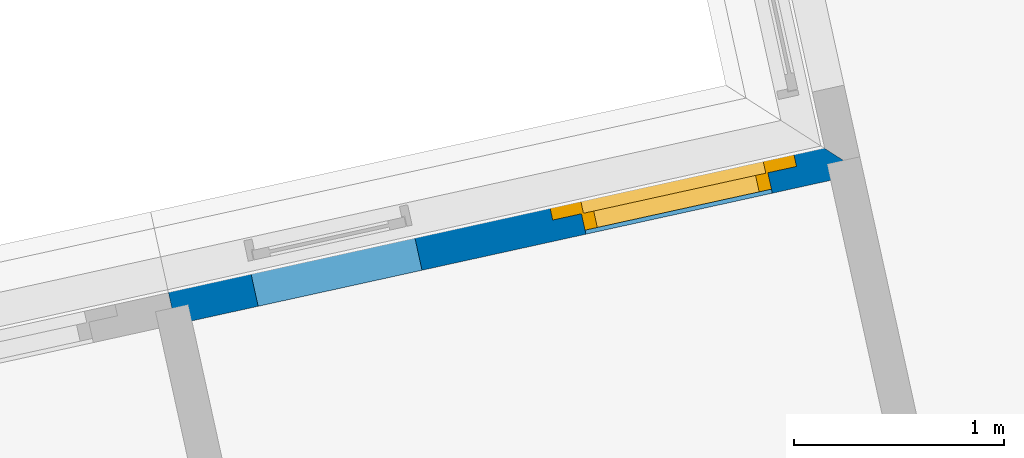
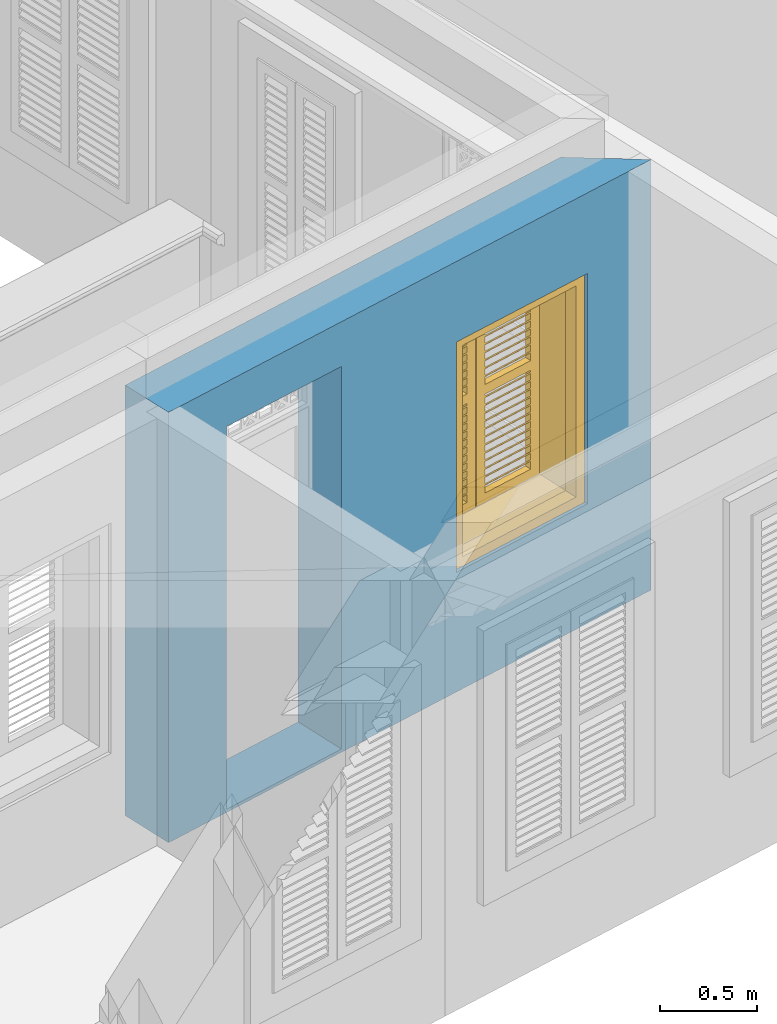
# One storey, part 4 of 17: 1 wall, 1 window, 2 openings.
"""IFC4 building model written with IfcOpenShell, lengths in metres."""

from ifc_helpers import new_model, si_unit, frame, origin, origin_with_axes, place, context, subcontext, project, spatial, polyline, outline, extrude, faceted_brep, source, transform, mapped, material, layer, layer_set, layer_usage, type_object, type_shapes, element, fill, save


model = new_model("IFC4")

# Units and contexts
model_context = context("Model", 3, world=origin_with_axes())
body_context = subcontext(model_context, "Body", "Model", "MODEL_VIEW")
ifc_project = project(units=[si_unit("PLANEANGLEUNIT", "RADIAN"), si_unit("MASSUNIT", "GRAM", prefix="KILO"), si_unit("FORCEUNIT", "NEWTON", prefix="KILO"), si_unit("LENGTHUNIT", "METRE"), si_unit("AREAUNIT", "SQUARE_METRE"), si_unit("VOLUMEUNIT", "CUBIC_METRE")], contexts=[model_context, model_context])

# Site, building, storey
site_placement = place(None, origin_with_axes())
site = spatial("IfcSite", under=ifc_project, at=site_placement, Name="Site plot-2", CompositionType="ELEMENT")
building_placement = place(None, origin_with_axes())
building = spatial("IfcBuilding", under=site, at=building_placement, Name="Building plot-2", CompositionType="ELEMENT")
storey_placement = place(None, frame((0.0, 0.0, 2.85), z_axis=(0.0, 0.0, 1.0), x_axis=(1.0, 0.0, 0.0)))
storey = spatial("IfcBuildingStorey", under=building, at=storey_placement, Name="plot-2 1", CompositionType="ELEMENT", Elevation=2.85)

# Wall, openings, window
ifc_material = material(Name="Masonry")
ifc_layer = layer(ifc_material, 0.33, ventilated=False)
ifc_layer_set = layer_set([ifc_layer], Name="exterior_0.08_0.25")
ifc_layer_usage = layer_usage(ifc_layer_set, "AXIS2", "POSITIVE", -0.25)
wall_type = type_object("IfcWallType", Name="exterior_0.08_0.25", PredefinedType="SOLIDWALL", material=ifc_layer_set)
wall_placement = place(storey_placement, frame((17.3993050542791, 4.6147878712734, 0.0), z_axis=(0.0, 0.0, 1.0), x_axis=(-0.976656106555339, -0.214808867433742, 0.0)))
wall = element("IfcWall", 1, at=wall_placement, inside=storey, type_object=wall_type, material=ifc_layer_usage, Name="exterior", context=body_context, shape_type="SweptSolid", body=[
    extrude(outline(polyline([(-0.0799999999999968, 0.0800000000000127), (0.249999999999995, -0.24999999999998), (3.27829974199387, -0.25), (3.27829974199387, 0.0799999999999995), (-0.0799999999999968, 0.0800000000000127)])), origin_with_axes(), (0.0, 0.0, 1.0), 2.7),
])
opening_1_placement = place(wall_placement, frame((0.364574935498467, 0.0, 0.75)))
opening_1 = element("IfcOpeningElement", 2, at=opening_1_placement, cuts=wall, Name="My Opening", ObjectType="Opening", context=body_context, shape_type="SweptSolid", body=[
    extrude(outline(polyline([(0.0, -0.27), (0.910000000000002, -0.270000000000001), (0.910000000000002, 1.1), (1.11022302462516e-15, 1.1), (0.0, -0.27)])), origin_with_axes(), (0.0, 0.0, 1.0), 1.445),
])
opening_2_placement = place(wall_placement, frame((2.07457493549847, 0.0, 0.02)))
element("IfcOpeningElement", 3, at=opening_2_placement, cuts=wall, Name="My Opening", ObjectType="Opening", context=body_context, shape_type="SweptSolid", body=[
    extrude(outline(polyline([(0.0, -0.270000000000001), (0.800000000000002, -0.270000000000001), (0.8, 1.1), (-8.88178419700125e-16, 1.1), (0.0, -0.270000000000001)])), origin_with_axes(), (0.0, 0.0, 1.0), 2.4),
])
window_type = type_object("IfcWindowType", Name="shuttered_shorter", PartitioningType="DOUBLE_PANEL_HORIZONTAL", PredefinedType="NOTDEFINED")
shared_shape = source(origin(), body_context, "Body", "Brep", [
    faceted_brep([(0.393, 0.0, 0.622), (0.074, 0.0, 0.622), (0.074, 0.0, 0.632), (0.393, 0.0, 0.632), (0.074, -0.04, 0.592), (0.393, -0.04, 0.592), (0.393, -0.04, 0.582), (0.074, -0.04, 0.582), (0.517, 0.0, 0.682), (0.836, 0.0, 0.682), (0.836, 0.0, 0.672), (0.517, 0.0, 0.672), (0.517, -0.04, 0.642), (0.836, -0.04, 0.642), (0.836, -0.04, 0.632), (0.517, -0.04, 0.632), (0.517, 0.0, 0.632), (0.836, 0.0, 0.632), (0.836, 0.0, 0.622), (0.517, 0.0, 0.622), (0.517, -0.04, 0.592), (0.836, -0.04, 0.592), (0.836, -0.04, 0.582), (0.517, -0.04, 0.582), (0.517, 0.0, 0.232), (0.836, 0.0, 0.232), (0.836, 0.0, 0.222), (0.517, 0.0, 0.222), (0.517, -0.04, 0.192), (0.836, -0.04, 0.192), (0.836, -0.04, 0.182), (0.517, -0.04, 0.182), (0.517, 0.0, 0.532), (0.836, 0.0, 0.532), (0.836, 0.0, 0.522), (0.517, 0.0, 0.522), (0.517, -0.04, 0.492), (0.836, -0.04, 0.492), (0.836, -0.04, 0.482), (0.517, -0.04, 0.482), (0.517, 0.0, 0.482), (0.836, 0.0, 0.482), (0.836, 0.0, 0.472), (0.517, 0.0, 0.472), (0.517, -0.04, 0.442), (0.836, -0.04, 0.442), (0.836, -0.04, 0.432), (0.517, -0.04, 0.432), (0.517, 0.0, 0.582), (0.836, 0.0, 0.582), (0.836, 0.0, 0.572), (0.517, 0.0, 0.572), (0.517, -0.04, 0.542), (0.836, -0.04, 0.542), (0.836, -0.04, 0.532), (0.517, -0.04, 0.532), (0.517, 0.0, 0.182), (0.836, 0.0, 0.182), (0.836, 0.0, 0.172), (0.517, 0.0, 0.172), (0.517, -0.04, 0.142), (0.836, -0.04, 0.142), (0.836, -0.04, 0.132), (0.517, -0.04, 0.132), (0.517, 0.0, 0.382), (0.836, 0.0, 0.382), (0.836, 0.0, 0.372), (0.517, 0.0, 0.372), (0.517, -0.04, 0.342), (0.836, -0.04, 0.342), (0.836, -0.04, 0.332), (0.517, -0.04, 0.332), (0.517, 0.0, 0.432), (0.836, 0.0, 0.432), (0.836, 0.0, 0.422), (0.517, 0.0, 0.422), (0.517, -0.04, 0.392), (0.836, -0.04, 0.392), (0.836, -0.04, 0.382), (0.517, -0.04, 0.382), (0.517, 0.0, 0.132), (0.836, 0.0, 0.132), (0.836, 0.0, 0.122), (0.517, 0.0, 0.122), (0.517, -0.04, 0.092), (0.836, -0.04, 0.092), (0.836, -0.04, 0.082), (0.517, -0.04, 0.082), (0.517, 0.0, 0.282), (0.836, 0.0, 0.282), (0.836, 0.0, 0.272), (0.517, 0.0, 0.272), (0.517, -0.04, 0.242), (0.836, -0.04, 0.242), (0.836, -0.04, 0.232), (0.517, -0.04, 0.232), (0.517, 0.0, 0.332), (0.836, 0.0, 0.332), (0.836, 0.0, 0.322), (0.517, 0.0, 0.322), (0.517, -0.04, 0.292), (0.836, -0.04, 0.292), (0.836, -0.04, 0.282), (0.517, -0.04, 0.282), (0.517, 0.0, 1.362667), (0.836, 0.0, 1.362667), (0.836, 0.0, 1.352667), (0.517, 0.0, 1.352667), (0.517, -0.04, 1.322667), (0.836, -0.04, 1.322667), (0.836, -0.04, 1.312667), (0.517, -0.04, 1.312667), (0.517, 0.0, 1.312667), (0.836, 0.0, 1.312667), (0.836, 0.0, 1.302667), (0.517, 0.0, 1.302667), (0.517, -0.04, 1.272667), (0.836, -0.04, 1.272667), (0.836, -0.04, 1.262667), (0.517, -0.04, 1.262667), (0.517, 0.0, 0.912667), (0.836, 0.0, 0.912667), (0.836, 0.0, 0.902667), (0.517, 0.0, 0.902667), (0.517, -0.04, 0.872667), (0.836, -0.04, 0.872667), (0.836, -0.04, 0.862667), (0.517, -0.04, 0.862667), (0.517, 0.0, 1.212667), (0.836, 0.0, 1.212667), (0.836, 0.0, 1.202667), (0.517, 0.0, 1.202667), (0.517, -0.04, 1.172667), (0.836, -0.04, 1.172667), (0.836, -0.04, 1.162667), (0.517, -0.04, 1.162667), (0.517, 0.0, 1.162667), (0.836, 0.0, 1.162667), (0.836, 0.0, 1.152667), (0.517, 0.0, 1.152667), (0.517, -0.04, 1.122667), (0.836, -0.04, 1.122667), (0.836, -0.04, 1.112667), (0.517, -0.04, 1.112667), (0.517, 0.0, 1.262667), (0.836, 0.0, 1.262667), (0.836, 0.0, 1.252667), (0.517, 0.0, 1.252667), (0.517, -0.04, 1.222667), (0.836, -0.04, 1.222667), (0.836, -0.04, 1.212667), (0.517, -0.04, 1.212667), (0.517, 0.0, 0.862667), (0.836, 0.0, 0.862667), (0.836, 0.0, 0.852667), (0.517, 0.0, 0.852667), (0.517, -0.04, 0.822667), (0.836, -0.04, 0.822667), (0.836, -0.04, 0.812667), (0.517, -0.04, 0.812667), (0.517, 0.0, 1.062667), (0.836, 0.0, 1.062667), (0.836, 0.0, 1.052667), (0.517, 0.0, 1.052667), (0.517, -0.04, 1.022667), (0.836, -0.04, 1.022667), (0.836, -0.04, 1.012667), (0.517, -0.04, 1.012667), (0.517, 0.0, 1.112667), (0.836, 0.0, 1.112667), (0.836, 0.0, 1.102667), (0.517, 0.0, 1.102667), (0.517, -0.04, 1.072667), (0.836, -0.04, 1.072667), (0.836, -0.04, 1.062667), (0.517, -0.04, 1.062667), (0.517, 0.0, 0.812667), (0.836, 0.0, 0.812667), (0.836, 0.0, 0.802667), (0.517, 0.0, 0.802667), (0.517, -0.04, 0.772667), (0.836, -0.04, 0.772667), (0.836, -0.04, 0.762667), (0.517, -0.04, 0.762667), (0.517, 0.0, 0.962667), (0.836, 0.0, 0.962667), (0.836, 0.0, 0.952667), (0.517, 0.0, 0.952667), (0.517, -0.04, 0.922667), (0.836, -0.04, 0.922667), (0.836, -0.04, 0.912667), (0.517, -0.04, 0.912667), (0.517, 0.0, 1.012667), (0.836, 0.0, 1.012667), (0.836, 0.0, 1.002667), (0.517, 0.0, 1.002667), (0.517, -0.04, 0.972667), (0.836, -0.04, 0.972667), (0.836, -0.04, 0.962667), (0.517, -0.04, 0.962667), (0.074, 0.0, 0.682), (0.393, 0.0, 0.682), (0.393, 0.0, 0.672), (0.074, 0.0, 0.672), (0.074, -0.04, 0.642), (0.393, -0.04, 0.642), (0.393, -0.04, 0.632), (0.074, -0.04, 0.632), (0.074, 0.0, 0.232), (0.393, 0.0, 0.232), (0.393, 0.0, 0.222), (0.074, 0.0, 0.222), (0.074, -0.04, 0.192), (0.393, -0.04, 0.192), (0.393, -0.04, 0.182), (0.074, -0.04, 0.182), (0.074, 0.0, 0.532), (0.393, 0.0, 0.532), (0.393, 0.0, 0.522), (0.074, 0.0, 0.522), (0.074, -0.04, 0.492), (0.393, -0.04, 0.492), (0.393, -0.04, 0.482), (0.074, -0.04, 0.482), (0.074, 0.0, 0.482), (0.393, 0.0, 0.482), (0.393, 0.0, 0.472), (0.074, 0.0, 0.472), (0.074, -0.04, 0.442), (0.393, -0.04, 0.442), (0.393, -0.04, 0.432), (0.074, -0.04, 0.432), (0.074, 0.0, 0.582), (0.393, 0.0, 0.582), (0.393, 0.0, 0.572), (0.074, 0.0, 0.572), (0.074, -0.04, 0.542), (0.393, -0.04, 0.542), (0.393, -0.04, 0.532), (0.074, -0.04, 0.532), (0.074, 0.0, 0.182), (0.393, 0.0, 0.182), (0.393, 0.0, 0.172), (0.074, 0.0, 0.172), (0.074, -0.04, 0.142), (0.393, -0.04, 0.142), (0.393, -0.04, 0.132), (0.074, -0.04, 0.132), (0.074, 0.0, 0.382), (0.393, 0.0, 0.382), (0.393, 0.0, 0.372), (0.074, 0.0, 0.372), (0.074, -0.04, 0.342), (0.393, -0.04, 0.342), (0.393, -0.04, 0.332), (0.074, -0.04, 0.332), (0.074, 0.0, 0.432), (0.393, 0.0, 0.432), (0.393, 0.0, 0.422), (0.074, 0.0, 0.422), (0.074, -0.04, 0.392), (0.393, -0.04, 0.392), (0.393, -0.04, 0.382), (0.074, -0.04, 0.382), (0.074, 0.0, 0.132), (0.393, 0.0, 0.132), (0.393, 0.0, 0.122), (0.074, 0.0, 0.122), (0.074, -0.04, 0.092), (0.393, -0.04, 0.092), (0.393, -0.04, 0.082), (0.074, -0.04, 0.082), (0.074, 0.0, 0.282), (0.393, 0.0, 0.282), (0.393, 0.0, 0.272), (0.074, 0.0, 0.272), (0.074, -0.04, 0.242), (0.393, -0.04, 0.242), (0.393, -0.04, 0.232), (0.074, -0.04, 0.232), (0.074, 0.0, 0.332), (0.393, 0.0, 0.332), (0.393, 0.0, 0.322), (0.074, 0.0, 0.322), (0.074, -0.04, 0.292), (0.393, -0.04, 0.292), (0.393, -0.04, 0.282), (0.074, -0.04, 0.282), (0.074, 0.0, 1.362667), (0.393, 0.0, 1.362667), (0.393, 0.0, 1.352667), (0.074, 0.0, 1.352667), (0.074, -0.04, 1.322667), (0.393, -0.04, 1.322667), (0.393, -0.04, 1.312667), (0.074, -0.04, 1.312667), (0.074, 0.0, 1.312667), (0.393, 0.0, 1.312667), (0.393, 0.0, 1.302667), (0.074, 0.0, 1.302667), (0.074, -0.04, 1.272667), (0.393, -0.04, 1.272667), (0.393, -0.04, 1.262667), (0.074, -0.04, 1.262667), (0.074, 0.0, 0.912667), (0.393, 0.0, 0.912667), (0.393, 0.0, 0.902667), (0.074, 0.0, 0.902667), (0.074, -0.04, 0.872667), (0.393, -0.04, 0.872667), (0.393, -0.04, 0.862667), (0.074, -0.04, 0.862667), (0.074, 0.0, 1.212667), (0.393, 0.0, 1.212667), (0.393, 0.0, 1.202667), (0.074, 0.0, 1.202667), (0.074, -0.04, 1.172667), (0.393, -0.04, 1.172667), (0.393, -0.04, 1.162667), (0.074, -0.04, 1.162667), (0.074, 0.0, 1.162667), (0.393, 0.0, 1.162667), (0.393, 0.0, 1.152667), (0.074, 0.0, 1.152667), (0.074, -0.04, 1.122667), (0.393, -0.04, 1.122667), (0.393, -0.04, 1.112667), (0.074, -0.04, 1.112667), (0.074, 0.0, 1.262667), (0.393, 0.0, 1.262667), (0.393, 0.0, 1.252667), (0.074, 0.0, 1.252667), (0.074, -0.04, 1.222667), (0.393, -0.04, 1.222667), (0.393, -0.04, 1.212667), (0.074, -0.04, 1.212667), (0.074, 0.0, 0.862667), (0.393, 0.0, 0.862667), (0.393, 0.0, 0.852667), (0.074, 0.0, 0.852667), (0.074, -0.04, 0.822667), (0.393, -0.04, 0.822667), (0.393, -0.04, 0.812667), (0.074, -0.04, 0.812667), (0.074, 0.0, 1.062667), (0.393, 0.0, 1.062667), (0.393, 0.0, 1.052667), (0.074, 0.0, 1.052667), (0.074, -0.04, 1.022667), (0.393, -0.04, 1.022667), (0.393, -0.04, 1.012667), (0.074, -0.04, 1.012667), (0.074, 0.0, 1.112667), (0.393, 0.0, 1.112667), (0.393, 0.0, 1.102667), (0.074, 0.0, 1.102667), (0.074, -0.04, 1.072667), (0.393, -0.04, 1.072667), (0.393, -0.04, 1.062667), (0.074, -0.04, 1.062667), (0.074, 0.0, 0.812667), (0.393, 0.0, 0.812667), (0.393, 0.0, 0.802667), (0.074, 0.0, 0.802667), (0.074, -0.04, 0.772667), (0.393, -0.04, 0.772667), (0.393, -0.04, 0.762667), (0.074, -0.04, 0.762667), (0.074, 0.0, 0.962667), (0.393, 0.0, 0.962667), (0.393, 0.0, 0.952667), (0.074, 0.0, 0.952667), (0.074, -0.04, 0.922667), (0.393, -0.04, 0.922667), (0.393, -0.04, 0.912667), (0.074, -0.04, 0.912667), (0.074, 0.0, 1.012667), (0.393, 0.0, 1.012667), (0.393, 0.0, 1.002667), (0.074, 0.0, 1.002667), (0.074, -0.04, 0.972667), (0.393, -0.04, 0.972667), (0.393, -0.04, 0.962667), (0.074, -0.04, 0.962667), (0.517, -0.04, 0.072), (0.457, -0.04, 0.012), (0.896, -0.04, 0.012), (0.836, -0.04, 0.072), (0.457, -0.04, 0.692667), (0.517, -0.04, 0.692667), (0.457, 0.0, 0.012), (0.896, 0.0, 0.012), (0.836, -0.04, 0.692667), (0.896, -0.04, 0.692667), (0.836, 0.0, 0.072), (0.517, 0.0, 0.072), (0.457, 0.0, 0.692667), (0.517, 0.0, 0.692667), (0.517, -0.04, 0.752666), (0.457, -0.04, 0.752666), (0.896, 0.0, 0.692667), (0.836, 0.0, 0.692667), (0.836, -0.04, 0.752666), (0.896, -0.04, 0.752666), (0.457, 0.0, 0.752666), (0.457, -0.04, 1.433333), (0.517, -0.04, 1.373333), (0.896, 0.0, 0.752666), (0.836, -0.04, 1.373333), (0.896, -0.04, 1.433333), (0.457, 0.0, 1.433333), (0.517, 0.0, 0.752666), (0.836, 0.0, 0.752666), (0.517, 0.0, 1.373333), (0.896, 0.0, 1.433333), (0.836, 0.0, 1.373333), (0.074, -0.04, 0.072), (0.014, -0.04, 0.012), (0.453, -0.04, 0.012), (0.393, -0.04, 0.072), (0.014, -0.04, 0.692667), (0.074, -0.04, 0.692667), (0.014, 0.0, 0.012), (0.453, 0.0, 0.012), (0.393, -0.04, 0.692667), (0.453, -0.04, 0.692667), (0.393, 0.0, 0.072), (0.074, 0.0, 0.072), (0.014, 0.0, 0.692667), (0.074, 0.0, 0.692667), (0.074, -0.04, 0.752666), (0.014, -0.04, 0.752666), (0.453, 0.0, 0.692667), (0.393, 0.0, 0.692667), (0.393, -0.04, 0.752666), (0.453, -0.04, 0.752666), (0.014, 0.0, 0.752666), (0.014, -0.04, 1.433333), (0.074, -0.04, 1.373333), (0.453, 0.0, 0.752666), (0.393, -0.04, 1.373333), (0.453, -0.04, 1.433333), (0.014, 0.0, 1.433333), (0.074, 0.0, 0.752666), (0.393, 0.0, 0.752666), (0.074, 0.0, 1.373333), (0.453, 0.0, 1.433333), (0.393, 0.0, 1.373333), (0.0, 0.33, 1.445), (0.91, 0.33, 1.445), (0.85, 0.33, 1.385), (0.06, 0.33, 1.385), (0.91, 0.25, 1.445), (0.0, 0.25, 1.445), (0.91, 0.25, 1.445), (0.85, 0.33, 0.06), (0.91, 0.33, 0.0), (0.85, 0.25, 1.385), (0.06, 0.25, 1.385), (0.0, 0.33, 0.0), (0.06, 0.33, 0.06), (0.0, 0.25, 0.0), (0.91, 0.25, 0.0), (0.85, 0.25, 0.06), (0.06, 0.25, 0.06), (1.05, 0.25, 1.585), (-0.14, 0.25, 1.585), (-0.14, -0.03, 1.585), (1.05, -0.03, 1.585), (0.9, -0.03, 1.435), (0.01, -0.03, 1.435), (0.01, 0.25, 1.435), (0.9, 0.25, 1.435), (0.9, 0.25, 0.01), (0.9, -0.03, 0.01), (1.05, -0.03, -0.14), (1.05, 0.25, -0.14), (0.01, -0.03, 0.01), (0.01, 0.25, 0.01), (-0.14, -0.03, -0.14), (-0.14, 0.25, -0.14)], [[[0, 1, 2, 3]], [[4, 5, 3, 2]], [[5, 6, 0, 3]], [[1, 0, 6, 7]], [[2, 1, 7, 4]], [[5, 4, 7, 6]], [[8, 9, 10, 11]], [[12, 13, 9, 8]], [[13, 14, 10, 9]], [[14, 15, 11, 10]], [[15, 12, 8, 11]], [[13, 12, 15, 14]], [[16, 17, 18, 19]], [[20, 21, 17, 16]], [[21, 22, 18, 17]], [[22, 23, 19, 18]], [[23, 20, 16, 19]], [[21, 20, 23, 22]], [[24, 25, 26, 27]], [[28, 29, 25, 24]], [[29, 30, 26, 25]], [[30, 31, 27, 26]], [[31, 28, 24, 27]], [[29, 28, 31, 30]], [[32, 33, 34, 35]], [[36, 37, 33, 32]], [[37, 38, 34, 33]], [[38, 39, 35, 34]], [[39, 36, 32, 35]], [[37, 36, 39, 38]], [[40, 41, 42, 43]], [[44, 45, 41, 40]], [[45, 46, 42, 41]], [[46, 47, 43, 42]], [[47, 44, 40, 43]], [[45, 44, 47, 46]], [[48, 49, 50, 51]], [[52, 53, 49, 48]], [[53, 54, 50, 49]], [[54, 55, 51, 50]], [[55, 52, 48, 51]], [[53, 52, 55, 54]], [[56, 57, 58, 59]], [[60, 61, 57, 56]], [[61, 62, 58, 57]], [[62, 63, 59, 58]], [[63, 60, 56, 59]], [[61, 60, 63, 62]], [[64, 65, 66, 67]], [[68, 69, 65, 64]], [[69, 70, 66, 65]], [[70, 71, 67, 66]], [[71, 68, 64, 67]], [[69, 68, 71, 70]], [[72, 73, 74, 75]], [[76, 77, 73, 72]], [[77, 78, 74, 73]], [[78, 79, 75, 74]], [[79, 76, 72, 75]], [[77, 76, 79, 78]], [[80, 81, 82, 83]], [[84, 85, 81, 80]], [[85, 86, 82, 81]], [[86, 87, 83, 82]], [[87, 84, 80, 83]], [[85, 84, 87, 86]], [[88, 89, 90, 91]], [[92, 93, 89, 88]], [[93, 94, 90, 89]], [[94, 95, 91, 90]], [[95, 92, 88, 91]], [[93, 92, 95, 94]], [[96, 97, 98, 99]], [[100, 101, 97, 96]], [[101, 102, 98, 97]], [[102, 103, 99, 98]], [[103, 100, 96, 99]], [[101, 100, 103, 102]], [[104, 105, 106, 107]], [[108, 109, 105, 104]], [[109, 110, 106, 105]], [[110, 111, 107, 106]], [[111, 108, 104, 107]], [[109, 108, 111, 110]], [[112, 113, 114, 115]], [[116, 117, 113, 112]], [[117, 118, 114, 113]], [[118, 119, 115, 114]], [[119, 116, 112, 115]], [[117, 116, 119, 118]], [[120, 121, 122, 123]], [[124, 125, 121, 120]], [[125, 126, 122, 121]], [[126, 127, 123, 122]], [[127, 124, 120, 123]], [[125, 124, 127, 126]], [[128, 129, 130, 131]], [[132, 133, 129, 128]], [[133, 134, 130, 129]], [[134, 135, 131, 130]], [[135, 132, 128, 131]], [[133, 132, 135, 134]], [[136, 137, 138, 139]], [[140, 141, 137, 136]], [[141, 142, 138, 137]], [[142, 143, 139, 138]], [[139, 143, 140, 136]], [[141, 140, 143, 142]], [[144, 145, 146, 147]], [[148, 149, 145, 144]], [[149, 150, 146, 145]], [[150, 151, 147, 146]], [[151, 148, 144, 147]], [[149, 148, 151, 150]], [[152, 153, 154, 155]], [[156, 157, 153, 152]], [[157, 158, 154, 153]], [[158, 159, 155, 154]], [[159, 156, 152, 155]], [[157, 156, 159, 158]], [[160, 161, 162, 163]], [[164, 165, 161, 160]], [[165, 166, 162, 161]], [[166, 167, 163, 162]], [[167, 164, 160, 163]], [[165, 164, 167, 166]], [[168, 169, 170, 171]], [[172, 173, 169, 168]], [[173, 174, 170, 169]], [[174, 175, 171, 170]], [[175, 172, 168, 171]], [[173, 172, 175, 174]], [[176, 177, 178, 179]], [[180, 181, 177, 176]], [[181, 182, 178, 177]], [[182, 183, 179, 178]], [[183, 180, 176, 179]], [[181, 180, 183, 182]], [[184, 185, 186, 187]], [[188, 189, 185, 184]], [[189, 190, 186, 185]], [[190, 191, 187, 186]], [[191, 188, 184, 187]], [[189, 188, 191, 190]], [[192, 193, 194, 195]], [[196, 197, 193, 192]], [[197, 198, 194, 193]], [[198, 199, 195, 194]], [[199, 196, 192, 195]], [[197, 196, 199, 198]], [[200, 201, 202, 203]], [[204, 205, 201, 200]], [[205, 206, 202, 201]], [[206, 207, 203, 202]], [[207, 204, 200, 203]], [[205, 204, 207, 206]], [[208, 209, 210, 211]], [[212, 213, 209, 208]], [[213, 214, 210, 209]], [[214, 215, 211, 210]], [[215, 212, 208, 211]], [[213, 212, 215, 214]], [[216, 217, 218, 219]], [[220, 221, 217, 216]], [[221, 222, 218, 217]], [[222, 223, 219, 218]], [[223, 220, 216, 219]], [[221, 220, 223, 222]], [[224, 225, 226, 227]], [[228, 229, 225, 224]], [[229, 230, 226, 225]], [[230, 231, 227, 226]], [[231, 228, 224, 227]], [[229, 228, 231, 230]], [[232, 233, 234, 235]], [[236, 237, 233, 232]], [[237, 238, 234, 233]], [[238, 239, 235, 234]], [[239, 236, 232, 235]], [[237, 236, 239, 238]], [[240, 241, 242, 243]], [[244, 245, 241, 240]], [[245, 246, 242, 241]], [[246, 247, 243, 242]], [[247, 244, 240, 243]], [[245, 244, 247, 246]], [[248, 249, 250, 251]], [[252, 253, 249, 248]], [[253, 254, 250, 249]], [[254, 255, 251, 250]], [[255, 252, 248, 251]], [[253, 252, 255, 254]], [[256, 257, 258, 259]], [[260, 261, 257, 256]], [[261, 262, 258, 257]], [[262, 263, 259, 258]], [[263, 260, 256, 259]], [[261, 260, 263, 262]], [[264, 265, 266, 267]], [[268, 269, 265, 264]], [[269, 270, 266, 265]], [[270, 271, 267, 266]], [[271, 268, 264, 267]], [[269, 268, 271, 270]], [[272, 273, 274, 275]], [[276, 277, 273, 272]], [[277, 278, 274, 273]], [[278, 279, 275, 274]], [[279, 276, 272, 275]], [[277, 276, 279, 278]], [[280, 281, 282, 283]], [[284, 285, 281, 280]], [[285, 286, 282, 281]], [[286, 287, 283, 282]], [[287, 284, 280, 283]], [[285, 284, 287, 286]], [[288, 289, 290, 291]], [[292, 293, 289, 288]], [[293, 294, 290, 289]], [[294, 295, 291, 290]], [[295, 292, 288, 291]], [[293, 292, 295, 294]], [[296, 297, 298, 299]], [[300, 301, 297, 296]], [[301, 302, 298, 297]], [[302, 303, 299, 298]], [[303, 300, 296, 299]], [[301, 300, 303, 302]], [[304, 305, 306, 307]], [[308, 309, 305, 304]], [[309, 310, 306, 305]], [[310, 311, 307, 306]], [[311, 308, 304, 307]], [[309, 308, 311, 310]], [[312, 313, 314, 315]], [[316, 317, 313, 312]], [[317, 318, 314, 313]], [[318, 319, 315, 314]], [[319, 316, 312, 315]], [[317, 316, 319, 318]], [[320, 321, 322, 323]], [[324, 325, 321, 320]], [[325, 326, 322, 321]], [[326, 327, 323, 322]], [[327, 324, 320, 323]], [[325, 324, 327, 326]], [[328, 329, 330, 331]], [[332, 333, 329, 328]], [[333, 334, 330, 329]], [[334, 335, 331, 330]], [[335, 332, 328, 331]], [[333, 332, 335, 334]], [[336, 337, 338, 339]], [[340, 341, 337, 336]], [[341, 342, 338, 337]], [[342, 343, 339, 338]], [[343, 340, 336, 339]], [[341, 340, 343, 342]], [[344, 345, 346, 347]], [[348, 349, 345, 344]], [[349, 350, 346, 345]], [[350, 351, 347, 346]], [[351, 348, 344, 347]], [[349, 348, 351, 350]], [[352, 353, 354, 355]], [[356, 357, 353, 352]], [[357, 358, 354, 353]], [[358, 359, 355, 354]], [[359, 356, 352, 355]], [[357, 356, 359, 358]], [[360, 361, 362, 363]], [[364, 365, 361, 360]], [[365, 366, 362, 361]], [[366, 367, 363, 362]], [[367, 364, 360, 363]], [[365, 364, 367, 366]], [[368, 369, 370, 371]], [[372, 373, 369, 368]], [[373, 374, 370, 369]], [[374, 375, 371, 370]], [[375, 372, 368, 371]], [[373, 372, 375, 374]], [[376, 377, 378, 379]], [[380, 381, 377, 376]], [[381, 382, 378, 377]], [[382, 383, 379, 378]], [[383, 380, 376, 379]], [[381, 380, 383, 382]], [[384, 385, 386, 387]], [[388, 385, 384, 389]], [[390, 391, 386, 385]], [[392, 387, 386, 393]], [[384, 387, 394, 395]], [[390, 385, 388, 396]], [[389, 384, 395, 397]], [[389, 398, 399, 388]], [[390, 395, 394, 391]], [[400, 393, 386, 391]], [[387, 392, 401, 394]], [[402, 392, 393, 403]], [[396, 388, 399, 404]], [[390, 396, 397, 395]], [[392, 389, 397, 401]], [[398, 389, 392, 402]], [[405, 399, 398, 406]], [[394, 401, 400, 391]], [[407, 403, 393, 400]], [[408, 402, 403, 409]], [[404, 399, 405, 410]], [[411, 397, 396, 404]], [[397, 411, 412, 401]], [[398, 402, 412, 411]], [[406, 398, 411, 413]], [[405, 406, 408, 409]], [[401, 412, 407, 400]], [[414, 409, 403, 407]], [[402, 408, 415, 412]], [[405, 409, 414, 410]], [[404, 410, 413, 411]], [[408, 406, 413, 415]], [[412, 415, 414, 407]], [[413, 410, 414, 415]], [[416, 417, 418, 419]], [[420, 417, 416, 421]], [[422, 423, 418, 417]], [[424, 419, 418, 425]], [[416, 419, 426, 427]], [[422, 417, 420, 428]], [[421, 416, 427, 429]], [[421, 430, 431, 420]], [[422, 427, 426, 423]], [[432, 425, 418, 423]], [[419, 424, 433, 426]], [[434, 424, 425, 435]], [[428, 420, 431, 436]], [[422, 428, 429, 427]], [[424, 421, 429, 433]], [[430, 421, 424, 434]], [[437, 431, 430, 438]], [[426, 433, 432, 423]], [[439, 435, 425, 432]], [[440, 434, 435, 441]], [[436, 431, 437, 442]], [[443, 429, 428, 436]], [[429, 443, 444, 433]], [[430, 434, 444, 443]], [[438, 430, 443, 445]], [[437, 438, 440, 441]], [[433, 444, 439, 432]], [[446, 441, 435, 439]], [[434, 440, 447, 444]], [[437, 441, 446, 442]], [[436, 442, 445, 443]], [[440, 438, 445, 447]], [[444, 447, 446, 439]], [[445, 442, 446, 447]], [[448, 449, 450, 451]], [[452, 449, 448]], [[448, 453, 454]], [[448, 454, 452]], [[455, 450, 449, 456]], [[451, 450, 457, 458]], [[459, 448, 451, 460]], [[448, 459, 461, 453]], [[454, 453, 458, 457]], [[462, 452, 454]], [[454, 457, 463]], [[454, 463, 462]], [[456, 449, 452, 462]], [[450, 455, 463, 457]], [[456, 459, 460, 455]], [[460, 451, 458, 464]], [[459, 456, 462, 461]], [[464, 458, 453, 461]], [[461, 462, 463, 464]], [[455, 460, 464, 463]], [[465, 466, 467, 468]], [[469, 470, 471, 472]], [[473, 474, 469, 472]], [[465, 468, 475, 476]], [[470, 477, 478, 471]], [[474, 473, 478, 477]], [[474, 477, 479, 475]], [[470, 467, 479, 477]], [[470, 469, 468, 467]], [[474, 475, 468, 469]], [[471, 478, 480, 466]], [[473, 472, 465, 476]], [[473, 476, 480, 478]], [[466, 465, 472, 471]], [[480, 476, 475, 479]], [[480, 479, 467, 466]]]),
])
type_shapes(window_type, [shared_shape])
window_placement = place(storey_placement, frame((16.9852423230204, 4.80017109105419, 0.75), z_axis=(0.0, 0.0, 1.0), x_axis=(-0.88875705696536, -0.195476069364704, 0.0)))
window = element("IfcWindow", 4, at=window_placement, inside=storey, type_object=window_type, Name="toilet sahn window", OverallHeight=1.445, OverallWidth=0.91, context=body_context, shape_type="MappedRepresentation", body=[
    mapped(shared_shape, transform((0.0, 0.0, 0.0), scale=1.0)),
])
fill(opening_1, window)

save(model, "model.ifc")
